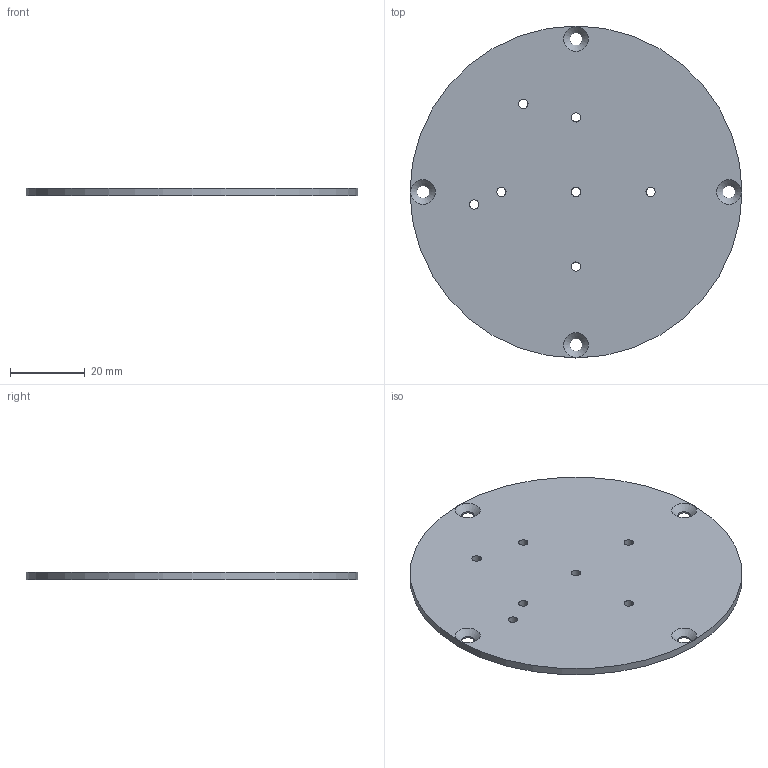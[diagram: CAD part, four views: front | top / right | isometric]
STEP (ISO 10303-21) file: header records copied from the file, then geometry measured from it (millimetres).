
FILE_DESCRIPTION (( 'STEP AP214' ), '1' );
FILE_NAME ('3-091-001 菁釱鍼踢.STEP', '2026-05-21T03:51:02', ( 'Windows User' ), ( 'P R C' ), 'SwSTEP 2.0', 'SolidWorks 2021', '' );
FILE_SCHEMA (( 'AUTOMOTIVE_DESIGN' ));
Length unit declared in the file: millimetre
Products named in the file (1): 3-091-001 菁釱鍼踢
Bounding box: 89 x 89 x 2 mm (x, y, z)
Volume: 12229.1 mm3; surface area: 13028.8 mm2
Topology: 1 solids, 1 shells, 18 faces, 49 edges, 33 vertices
Faces by surface type: cylinder 12, cone 4, plane 2
Full cylindrical faces by diameter (mm): 2.5 x7, 3.4 x4, 89 x1
Entity records: 619 total; most frequent: DIRECTION 94, CARTESIAN_POINT 75, ORIENTED_EDGE 56, EDGE_LOOP 56, AXIS2_PLACEMENT_3D 47, FACE_OUTER_BOUND 30, EDGE_CURVE 28, VERTEX_POINT 28
